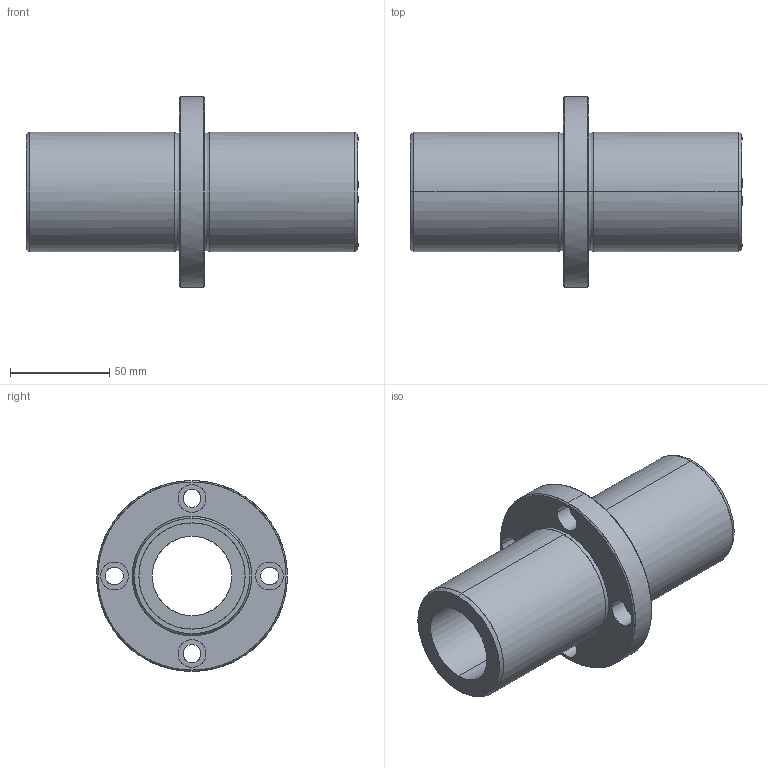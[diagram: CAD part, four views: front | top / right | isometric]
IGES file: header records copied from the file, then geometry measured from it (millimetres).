
Global section: file name: No Iges File Name specified; native system: AutoDesk Inventor R11.0; preprocessor: AutoDesk Inventor Iges Exporter R11.0; author: No Author specified; organization: No Organization specified; date: 20170921.144100; units: millimetre
Bounding box: 167 x 96 x 96 mm (x, y, z)
Surface area: 67039.7 mm2 (no closed solid volume)
Topology: 0 solids, 0 shells, 50 faces, 352 edges, 352 vertices
Faces by surface type: bspline 50
